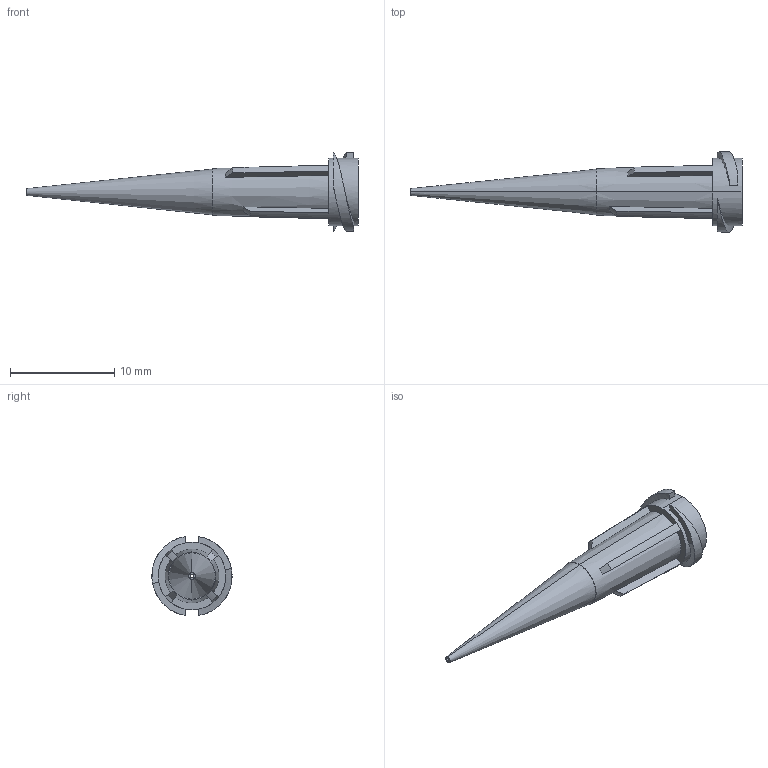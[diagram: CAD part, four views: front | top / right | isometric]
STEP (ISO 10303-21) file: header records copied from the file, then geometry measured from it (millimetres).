
FILE_DESCRIPTION (( 'STEP AP214' ), '1' );
FILE_NAME ('8001222_CUS.STEP', '2021-10-12T15:06:09', ( '' ), ( '' ), 'SwSTEP 2.0', 'SolidWorks 2020', '' );
FILE_SCHEMA (( 'AUTOMOTIVE_DESIGN' ));
Length unit declared in the file: millimetre
Products named in the file (1): 8001222_CUS
Bounding box: 31.9 x 7.69 x 7.59 mm (x, y, z)
Volume: 226.2 mm3; surface area: 762.1 mm2
Topology: 3 solids, 3 shells, 55 faces, 126 edges, 82 vertices
Faces by surface type: plane 25, cone 20, bspline 6, cylinder 4
Entity records: 1824 total; most frequent: CARTESIAN_POINT 554, DIRECTION 254, ORIENTED_EDGE 252, EDGE_CURVE 126, AXIS2_PLACEMENT_3D 100, VERTEX_POINT 82, EDGE_LOOP 62, ADVANCED_FACE 55
